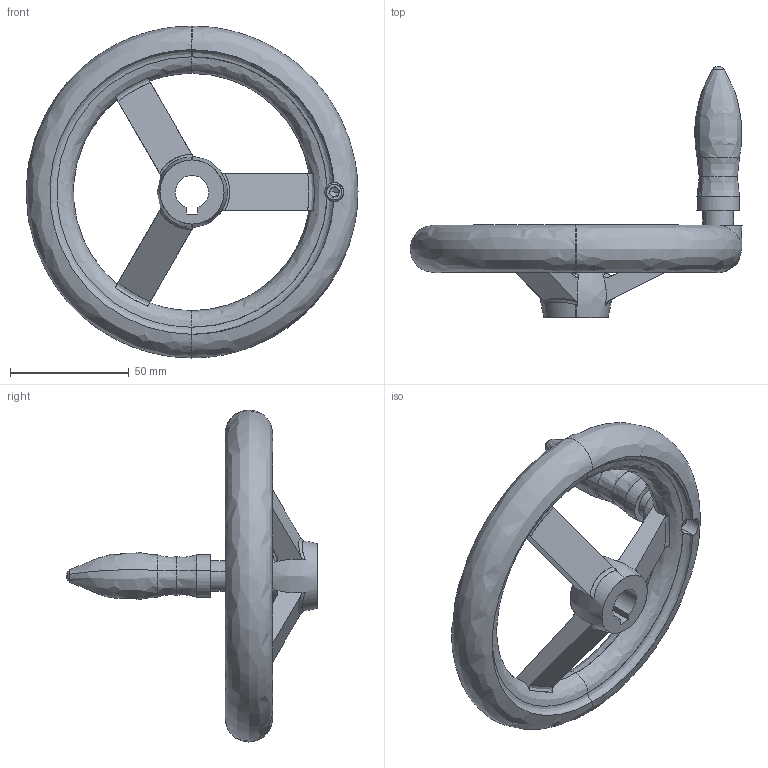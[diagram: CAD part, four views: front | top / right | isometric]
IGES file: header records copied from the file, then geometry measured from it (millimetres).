
Start section: SolidWorks IGES file using analytic representation for surfaces
Global section: file name: C:\Users\IanO\Desktop\Temp File\Process pending\77120_v2\77120_v2_20171108_IGES\77120.W0315.igs; native system: SolidWorks 2017; preprocessor: SolidWorks 2017; author: IanO; date: 171108.083524; units: millimetre
Bounding box: 140 x 106 x 140 mm (x, y, z)
Surface area: 40126.3 mm2 (no closed solid volume)
Topology: 0 solids, 0 shells, 146 faces, 1842 edges, 1835 vertices
Faces by surface type: bspline 85, revolution 61
